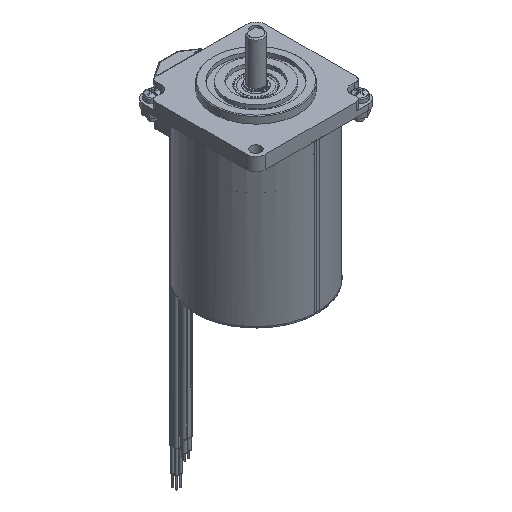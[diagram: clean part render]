
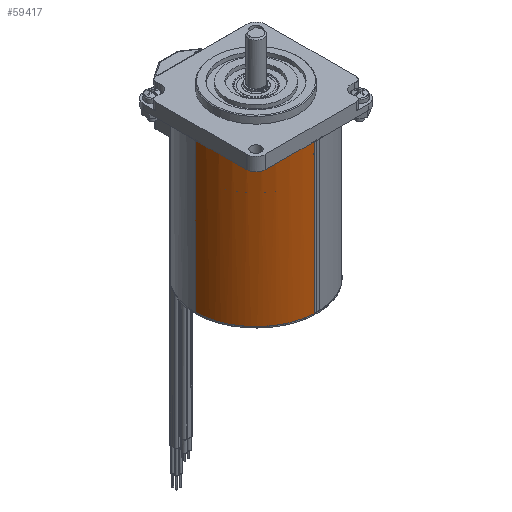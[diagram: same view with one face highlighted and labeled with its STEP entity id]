
A CAD part, isometric view. The second image highlights one B-rep face of the part: STEP entity #59417.
In plain terms, the highlighted cylindrical face has radius 24.93 mm (diameter 49.859 mm), a partial arc.
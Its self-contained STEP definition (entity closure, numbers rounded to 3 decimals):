
#292 = AXIS2_PLACEMENT_3D ( 'NONE', #26860, #7712, #14560 ) ;
#1552 = VERTEX_POINT ( 'NONE', #33968 ) ;
#1772 = FACE_OUTER_BOUND ( 'NONE', #35611, .T. ) ;
#4136 = DIRECTION ( 'NONE',  ( 0., 0., 1. ) ) ;
#4587 = CARTESIAN_POINT ( 'NONE',  ( -3.143, 2.877, -29.46 ) ) ;
#6450 = CYLINDRICAL_SURFACE ( 'NONE', #37636, 24.93 ) ;
#7219 = ORIENTED_EDGE ( 'NONE', *, *, #41180, .T. ) ;
#7712 = DIRECTION ( 'NONE',  ( 0., 0., 1. ) ) ;
#8523 = EDGE_CURVE ( 'NONE', #58566, #43174, #64454, .T. ) ;
#11983 = EDGE_CURVE ( 'NONE', #19967, #1552, #45699, .T. ) ;
#14560 = DIRECTION ( 'NONE',  ( -1., 0., 0. ) ) ;
#16023 = VECTOR ( 'NONE', #24147, 1000. ) ;
#17033 = DIRECTION ( 'NONE',  ( 0., 0., -1. ) ) ;
#19967 = VERTEX_POINT ( 'NONE', #37476 ) ;
#24147 = DIRECTION ( 'NONE',  ( 0., 0., 1. ) ) ;
#25796 = ORIENTED_EDGE ( 'NONE', *, *, #8523, .F. ) ;
#26860 = CARTESIAN_POINT ( 'NONE',  ( 21.786, 2.877, -90.46 ) ) ;
#27662 = ORIENTED_EDGE ( 'NONE', *, *, #52155, .T. ) ;
#30179 = CARTESIAN_POINT ( 'NONE',  ( 20.682, -22.029, 21.1 ) ) ;
#30233 = DIRECTION ( 'NONE',  ( -1., 0., 0. ) ) ;
#31919 = LINE ( 'NONE', #30179, #16023 ) ;
#33968 = CARTESIAN_POINT ( 'NONE',  ( 20.682, -22.029, -90.46 ) ) ;
#35611 = EDGE_LOOP ( 'NONE', ( #25796, #27662, #72000, #7219 ) ) ;
#37476 = CARTESIAN_POINT ( 'NONE',  ( -3.143, 2.877, -90.46 ) ) ;
#37636 = AXIS2_PLACEMENT_3D ( 'NONE', #62971, #51436, #30233 ) ;
#40178 = CARTESIAN_POINT ( 'NONE',  ( 21.786, 2.877, -29.46 ) ) ;
#41180 = EDGE_CURVE ( 'NONE', #1552, #43174, #31919, .T. ) ;
#43174 = VERTEX_POINT ( 'NONE', #48248 ) ;
#45558 = VECTOR ( 'NONE', #17033, 1000. ) ;
#45699 = CIRCLE ( 'NONE', #292, 24.93 ) ;
#46154 = DIRECTION ( 'NONE',  ( -1., 0., 0. ) ) ;
#48248 = CARTESIAN_POINT ( 'NONE',  ( 20.682, -22.029, -29.46 ) ) ;
#51436 = DIRECTION ( 'NONE',  ( 0., 0., -1. ) ) ;
#52155 = EDGE_CURVE ( 'NONE', #58566, #19967, #63397, .T. ) ;
#52917 = CARTESIAN_POINT ( 'NONE',  ( -3.143, 2.877, 21.1 ) ) ;
#58566 = VERTEX_POINT ( 'NONE', #4587 ) ;
#59417 = ADVANCED_FACE ( 'NONE', ( #1772 ), #6450, .T. ) ;
#62811 = AXIS2_PLACEMENT_3D ( 'NONE', #40178, #4136, #46154 ) ;
#62971 = CARTESIAN_POINT ( 'NONE',  ( 21.786, 2.877, 21.1 ) ) ;
#63397 = LINE ( 'NONE', #52917, #45558 ) ;
#64454 = CIRCLE ( 'NONE', #62811, 24.93 ) ;
#72000 = ORIENTED_EDGE ( 'NONE', *, *, #11983, .T. ) ;
